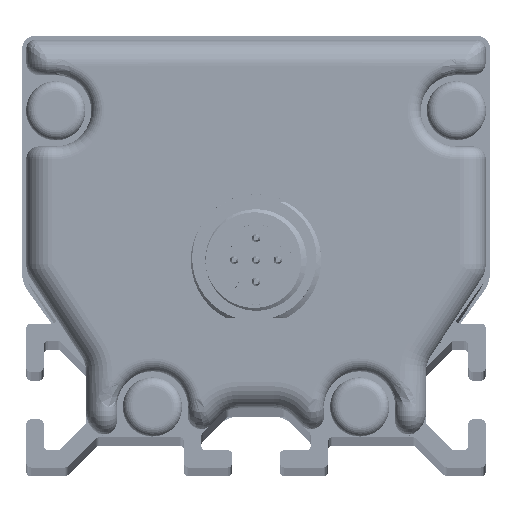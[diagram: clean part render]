
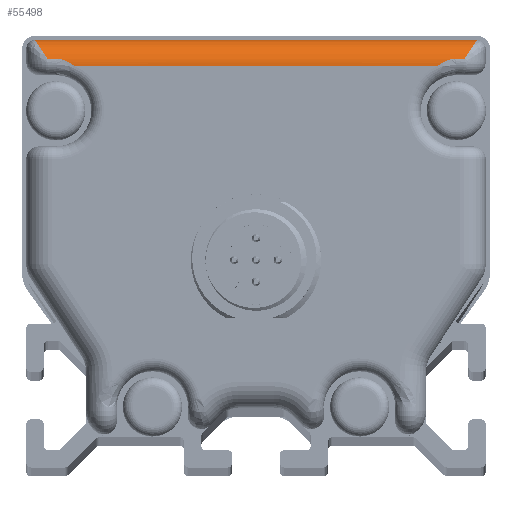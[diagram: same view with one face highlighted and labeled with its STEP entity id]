
A CAD part, top view. The second image highlights one B-rep face of the part: STEP entity #55498.
In plain terms, the highlighted cylindrical face has radius 3 mm (diameter 6 mm), a partial arc.
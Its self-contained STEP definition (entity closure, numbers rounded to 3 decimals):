
#374 = ORIENTED_EDGE ( 'NONE', *, *, #25069, .T. ) ;
#5010 = CARTESIAN_POINT ( 'NONE',  ( -21.7, 36.448, 9.968 ) ) ;
#8055 = CARTESIAN_POINT ( 'NONE',  ( -21.055, 36., 10. ) ) ;
#8729 = CARTESIAN_POINT ( 'NONE',  ( 0., 36., 7. ) ) ;
#9612 = EDGE_CURVE ( 'NONE', #91797, #59816, #14252, .T. ) ;
#14252 = B_SPLINE_CURVE_WITH_KNOTS ( 'NONE', 3,
 ( #128247, #107300, #48430, #70087, #81714, #129001, #22844, #35261 ),
 .UNSPECIFIED., .F., .F.,
 ( 4, 2, 2, 4 ),
 ( 0., 0.001, 0.002, 0.002 ),
 .UNSPECIFIED. ) ;
#14355 = CARTESIAN_POINT ( 'NONE',  ( -25.6, 39., 7. ) ) ;
#16865 = EDGE_LOOP ( 'NONE', ( #100601, #124955, #133124, #122355, #132374, #374, #75177, #49357 ) ) ;
#18932 = CARTESIAN_POINT ( 'NONE',  ( -22.803, 36.829, 9.884 ) ) ;
#19681 = CARTESIAN_POINT ( 'NONE',  ( -22.236, 36.689, 9.921 ) ) ;
#22844 = CARTESIAN_POINT ( 'NONE',  ( 23.002, 36.85, 9.877 ) ) ;
#24439 = VECTOR ( 'NONE', #43320, 1000. ) ;
#25069 = EDGE_CURVE ( 'NONE', #67945, #87236, #112449, .T. ) ;
#27465 = CARTESIAN_POINT ( 'NONE',  ( -24.167, 36.85, 9.877 ) ) ;
#28311 = CARTESIAN_POINT ( 'NONE',  ( -23.2, 36.85, 9.877 ) ) ;
#34225 = EDGE_CURVE ( 'NONE', #90006, #128885, #125695, .T. ) ;
#35261 = CARTESIAN_POINT ( 'NONE',  ( 23.2, 36.85, 9.877 ) ) ;
#36081 = LINE ( 'NONE', #49230, #104609 ) ;
#36121 = CARTESIAN_POINT ( 'NONE',  ( 21.055, 36., 10. ) ) ;
#36549 =( BOUNDED_CURVE ( )  B_SPLINE_CURVE ( 3, ( #102114, #43258, #45514, #91985 ),
 .UNSPECIFIED., .F., .F. ) 
 B_SPLINE_CURVE_WITH_KNOTS ( ( 4, 4 ),
 ( 5., 6.283 ),
 .UNSPECIFIED. ) 
 CURVE ( )  GEOMETRIC_REPRESENTATION_ITEM ( )  RATIONAL_B_SPLINE_CURVE ( ( 1., 0.867, 0.867, 1. ) ) 
 REPRESENTATION_ITEM ( '' )  );
#36912 = VERTEX_POINT ( 'NONE', #70394 ) ;
#40966 = VECTOR ( 'NONE', #136559, 1000. ) ;
#41477 = CARTESIAN_POINT ( 'NONE',  ( -23.002, 36.85, 9.877 ) ) ;
#43258 = CARTESIAN_POINT ( 'NONE',  ( 25.049, 38.174, 9.486 ) ) ;
#43320 = DIRECTION ( 'NONE',  ( -1., 0., 0. ) ) ;
#43322 = AXIS2_PLACEMENT_3D ( 'NONE', #8729, #127257, #69097 ) ;
#43838 = CARTESIAN_POINT ( 'NONE',  ( 25.6, 39., 7. ) ) ;
#45514 = CARTESIAN_POINT ( 'NONE',  ( 25.6, 39., 8.38 ) ) ;
#46656 = CYLINDRICAL_SURFACE ( 'NONE', #43322, 3. ) ;
#48430 = CARTESIAN_POINT ( 'NONE',  ( 21.693, 36.464, 9.968 ) ) ;
#49230 = CARTESIAN_POINT ( 'NONE',  ( 0., 36.85, 9.877 ) ) ;
#49357 = ORIENTED_EDGE ( 'NONE', *, *, #125284, .F. ) ;
#51335 = CARTESIAN_POINT ( 'NONE',  ( -24.167, 36.85, 9.877 ) ) ;
#51990 = DIRECTION ( 'NONE',  ( 1., 0., 0. ) ) ;
#54770 = CARTESIAN_POINT ( 'NONE',  ( -21.055, 36., 10. ) ) ;
#55498 = ADVANCED_FACE ( 'NONE', ( #114868 ), #46656, .T. ) ;
#55503 =( BOUNDED_CURVE ( )  B_SPLINE_CURVE ( 3, ( #27465, #76958, #148254, #145232 ),
 .UNSPECIFIED., .F., .F. ) 
 B_SPLINE_CURVE_WITH_KNOTS ( ( 4, 4 ),
 ( 5., 6.283 ),
 .UNSPECIFIED. ) 
 CURVE ( )  GEOMETRIC_REPRESENTATION_ITEM ( )  RATIONAL_B_SPLINE_CURVE ( ( 1., 0.867, 0.867, 1. ) ) 
 REPRESENTATION_ITEM ( '' )  );
#59816 = VERTEX_POINT ( 'NONE', #123970 ) ;
#61022 = CARTESIAN_POINT ( 'NONE',  ( -23.2, 36.85, 9.877 ) ) ;
#61093 = VERTEX_POINT ( 'NONE', #54770 ) ;
#66916 = CARTESIAN_POINT ( 'NONE',  ( -21.876, 36.54, 9.952 ) ) ;
#67945 = VERTEX_POINT ( 'NONE', #51335 ) ;
#69097 = DIRECTION ( 'NONE',  ( 0., 0., -1. ) ) ;
#69936 = EDGE_CURVE ( 'NONE', #59816, #36912, #36081, .T. ) ;
#70087 = CARTESIAN_POINT ( 'NONE',  ( 22.234, 36.689, 9.921 ) ) ;
#70394 = CARTESIAN_POINT ( 'NONE',  ( 24.167, 36.85, 9.877 ) ) ;
#70691 = EDGE_CURVE ( 'NONE', #87236, #61093, #122741, .T. ) ;
#75177 = ORIENTED_EDGE ( 'NONE', *, *, #70691, .T. ) ;
#75450 = VECTOR ( 'NONE', #51990, 1000. ) ;
#76958 = CARTESIAN_POINT ( 'NONE',  ( -25.049, 38.174, 9.486 ) ) ;
#77379 = LINE ( 'NONE', #113806, #24439 ) ;
#78566 = CARTESIAN_POINT ( 'NONE',  ( -22.421, 36.748, 9.906 ) ) ;
#81714 = CARTESIAN_POINT ( 'NONE',  ( 22.424, 36.749, 9.905 ) ) ;
#87236 = VERTEX_POINT ( 'NONE', #61022 ) ;
#88675 = CARTESIAN_POINT ( 'NONE',  ( -21.367, 36.241, 9.992 ) ) ;
#90006 = VERTEX_POINT ( 'NONE', #14355 ) ;
#91797 = VERTEX_POINT ( 'NONE', #36121 ) ;
#91985 = CARTESIAN_POINT ( 'NONE',  ( 25.6, 39., 7. ) ) ;
#99407 = CARTESIAN_POINT ( 'NONE',  ( 25.6, 39., 7. ) ) ;
#100601 = ORIENTED_EDGE ( 'NONE', *, *, #9612, .T. ) ;
#102114 = CARTESIAN_POINT ( 'NONE',  ( 24.167, 36.85, 9.877 ) ) ;
#104609 = VECTOR ( 'NONE', #144525, 1000. ) ;
#107300 = CARTESIAN_POINT ( 'NONE',  ( 21.36, 36.251, 10. ) ) ;
#112449 = LINE ( 'NONE', #146539, #75450 ) ;
#113806 = CARTESIAN_POINT ( 'NONE',  ( -25.6, 36., 10. ) ) ;
#114209 = CARTESIAN_POINT ( 'NONE',  ( -21.208, 36.126, 10. ) ) ;
#114868 = FACE_OUTER_BOUND ( 'NONE', #16865, .T. ) ;
#115491 = EDGE_CURVE ( 'NONE', #36912, #128885, #36549, .T. ) ;
#122355 = ORIENTED_EDGE ( 'NONE', *, *, #34225, .F. ) ;
#122741 = B_SPLINE_CURVE_WITH_KNOTS ( 'NONE', 3,
 ( #28311, #41477, #18932, #78566, #19681, #66916, #5010, #88675, #114209, #8055 ),
 .UNSPECIFIED., .F., .F.,
 ( 4, 2, 2, 2, 4 ),
 ( 0., 0.001, 0.001, 0.002, 0.002 ),
 .UNSPECIFIED. ) ;
#123970 = CARTESIAN_POINT ( 'NONE',  ( 23.2, 36.85, 9.877 ) ) ;
#124955 = ORIENTED_EDGE ( 'NONE', *, *, #69936, .T. ) ;
#125284 = EDGE_CURVE ( 'NONE', #91797, #61093, #77379, .T. ) ;
#125695 = LINE ( 'NONE', #99407, #40966 ) ;
#127257 = DIRECTION ( 'NONE',  ( 1., 0., 0. ) ) ;
#128247 = CARTESIAN_POINT ( 'NONE',  ( 21.055, 36., 10. ) ) ;
#128885 = VERTEX_POINT ( 'NONE', #43838 ) ;
#129001 = CARTESIAN_POINT ( 'NONE',  ( 22.807, 36.829, 9.883 ) ) ;
#132374 = ORIENTED_EDGE ( 'NONE', *, *, #134784, .F. ) ;
#133124 = ORIENTED_EDGE ( 'NONE', *, *, #115491, .T. ) ;
#134784 = EDGE_CURVE ( 'NONE', #67945, #90006, #55503, .T. ) ;
#136559 = DIRECTION ( 'NONE',  ( 1., 0., 0. ) ) ;
#144525 = DIRECTION ( 'NONE',  ( 1., 0., 0. ) ) ;
#145232 = CARTESIAN_POINT ( 'NONE',  ( -25.6, 39., 7. ) ) ;
#146539 = CARTESIAN_POINT ( 'NONE',  ( 0., 36.85, 9.877 ) ) ;
#148254 = CARTESIAN_POINT ( 'NONE',  ( -25.6, 39., 8.38 ) ) ;
